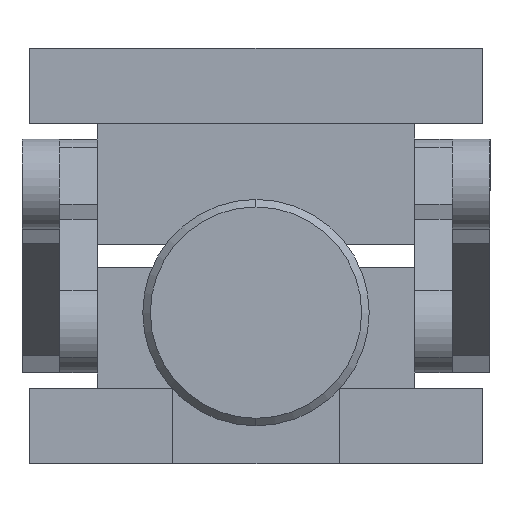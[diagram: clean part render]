
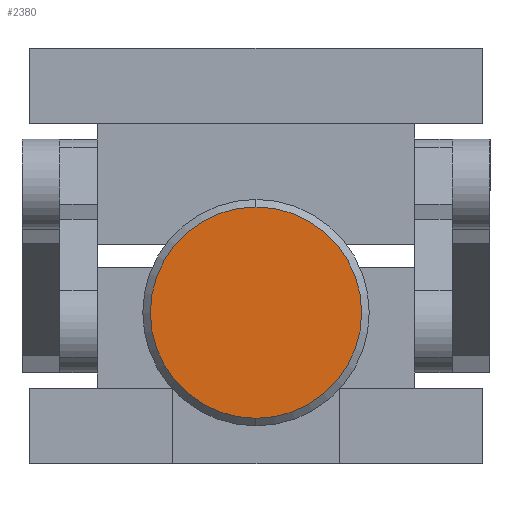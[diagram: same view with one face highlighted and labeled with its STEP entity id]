
A CAD part, left-side view. The second image highlights one B-rep face of the part: STEP entity #2380.
In plain terms, the highlighted planar face has unit normal (-1, 0, 0) as drawn and (0, 0, 1) by its records, which use the part's own axes.
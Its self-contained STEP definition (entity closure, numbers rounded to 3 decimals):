
#1320 = CARTESIAN_POINT ( 'NONE',  ( 0., 0., 31. ) ) ;
#2380 = ADVANCED_FACE ( 'NONE', ( #5733 ), #11985, .T. ) ;
#2963 = AXIS2_PLACEMENT_3D ( 'NONE', #10734, #7390, #13727 ) ;
#3465 = DIRECTION ( 'NONE',  ( 0., 0., 1. ) ) ;
#4017 = VERTEX_POINT ( 'NONE', #7719 ) ;
#4575 = CIRCLE ( 'NONE', #9801, 14. ) ;
#4600 = DIRECTION ( 'NONE',  ( 1., 0., 0. ) ) ;
#5694 = CIRCLE ( 'NONE', #2963, 14. ) ;
#5733 = FACE_OUTER_BOUND ( 'NONE', #11576, .T. ) ;
#6498 = ORIENTED_EDGE ( 'NONE', *, *, #11450, .T. ) ;
#6770 = DIRECTION ( 'NONE',  ( 0., 0., 1. ) ) ;
#7390 = DIRECTION ( 'NONE',  ( 0., 0., 1. ) ) ;
#7668 = AXIS2_PLACEMENT_3D ( 'NONE', #1320, #3465, #4600 ) ;
#7719 = CARTESIAN_POINT ( 'NONE',  ( -14., 0., 31. ) ) ;
#8349 = VERTEX_POINT ( 'NONE', #13200 ) ;
#8753 = DIRECTION ( 'NONE',  ( 1., 0., 0. ) ) ;
#8882 = CARTESIAN_POINT ( 'NONE',  ( 0., 0., 31. ) ) ;
#9801 = AXIS2_PLACEMENT_3D ( 'NONE', #8882, #6770, #8753 ) ;
#10734 = CARTESIAN_POINT ( 'NONE',  ( 0., 0., 31. ) ) ;
#10953 = EDGE_CURVE ( 'NONE', #8349, #4017, #5694, .T. ) ;
#11450 = EDGE_CURVE ( 'NONE', #4017, #8349, #4575, .T. ) ;
#11576 = EDGE_LOOP ( 'NONE', ( #6498, #13940 ) ) ;
#11985 = PLANE ( 'NONE',  #7668 ) ;
#13200 = CARTESIAN_POINT ( 'NONE',  ( 14., 0., 31. ) ) ;
#13727 = DIRECTION ( 'NONE',  ( 1., 0., 0. ) ) ;
#13940 = ORIENTED_EDGE ( 'NONE', *, *, #10953, .T. ) ;
